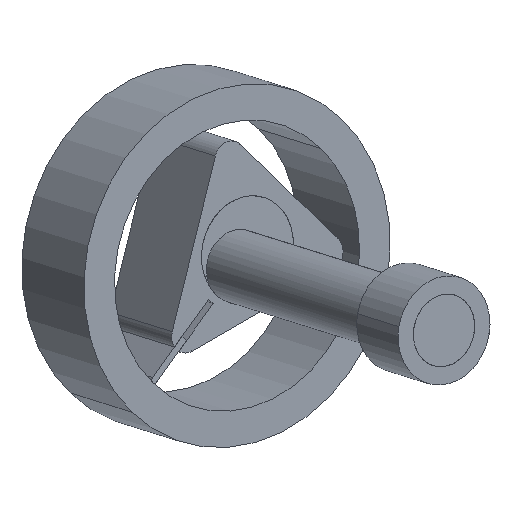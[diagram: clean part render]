
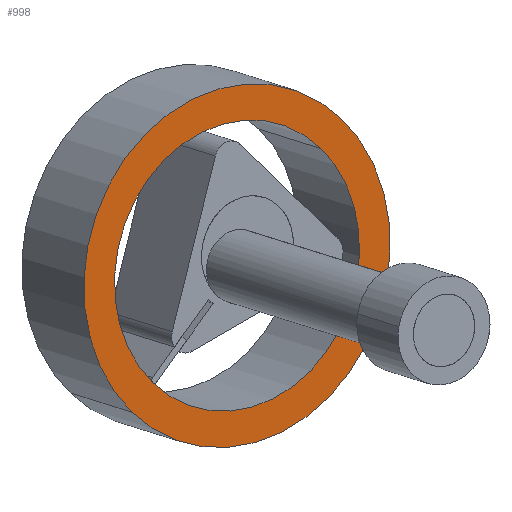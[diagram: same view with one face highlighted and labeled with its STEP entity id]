
A CAD part, left-side view. The second image highlights one B-rep face of the part: STEP entity #998.
In plain terms, the highlighted planar face has unit normal (-0.81, -0.56, -0.175) as drawn and (-1, 0, 0) by its records, which use the part's own axes.
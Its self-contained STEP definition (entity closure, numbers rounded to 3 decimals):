
#880=CARTESIAN_POINT('Vertex',(0.,50.,0.)) ;
#885=CARTESIAN_POINT('Axis2P3D Location',(0.,0.,0.)) ;
#889=CARTESIAN_POINT('Vertex',(0.,-50.,0.)) ;
#911=CARTESIAN_POINT('Axis2P3D Location',(0.,0.,0.)) ;
#946=CARTESIAN_POINT('Vertex',(0.,40.,0.)) ;
#949=CARTESIAN_POINT('Axis2P3D Location',(0.,0.,0.)) ;
#953=CARTESIAN_POINT('Vertex',(0.,-40.,0.)) ;
#973=CARTESIAN_POINT('Axis2P3D Location',(0.,0.,0.)) ;
#985=CARTESIAN_POINT('Axis2P3D Location',(0.,0.,0.)) ;
#886=DIRECTION('Axis2P3D Direction',(1.,0.,0.)) ;
#912=DIRECTION('Axis2P3D Direction',(1.,0.,0.)) ;
#950=DIRECTION('Axis2P3D Direction',(1.,0.,0.)) ;
#974=DIRECTION('Axis2P3D Direction',(1.,0.,0.)) ;
#986=DIRECTION('Axis2P3D Direction',(1.,0.,0.)) ;
#987=DIRECTION('Axis2P3D XDirection',(0.,1.,0.)) ;
#887=AXIS2_PLACEMENT_3D('Circle Axis2P3D',#885,#886,$) ;
#913=AXIS2_PLACEMENT_3D('Circle Axis2P3D',#911,#912,$) ;
#951=AXIS2_PLACEMENT_3D('Circle Axis2P3D',#949,#950,$) ;
#975=AXIS2_PLACEMENT_3D('Circle Axis2P3D',#973,#974,$) ;
#988=AXIS2_PLACEMENT_3D('Plane Axis2P3D',#985,#986,#987) ;
#991=ORIENTED_EDGE('',*,*,#915,.F.) ;
#992=ORIENTED_EDGE('',*,*,#891,.F.) ;
#995=ORIENTED_EDGE('',*,*,#977,.T.) ;
#996=ORIENTED_EDGE('',*,*,#955,.T.) ;
#997=FACE_BOUND('',#994,.T.) ;
#998=ADVANCED_FACE('Hauptk\X2\00F6\X0\rper',(#993,#997),#989,.F.) ;
#888=CIRCLE('generated circle',#887,50.) ;
#914=CIRCLE('generated circle',#913,50.) ;
#952=CIRCLE('generated circle',#951,40.) ;
#976=CIRCLE('generated circle',#975,40.) ;
#891=EDGE_CURVE('',#881,#890,#888,.T.) ;
#915=EDGE_CURVE('',#890,#881,#914,.T.) ;
#955=EDGE_CURVE('',#954,#947,#952,.T.) ;
#977=EDGE_CURVE('',#947,#954,#976,.T.) ;
#990=EDGE_LOOP('',(#991,#992)) ;
#994=EDGE_LOOP('',(#995,#996)) ;
#993=FACE_OUTER_BOUND('',#990,.T.) ;
#989=PLANE('Plane',#988) ;
#881=VERTEX_POINT('',#880) ;
#890=VERTEX_POINT('',#889) ;
#947=VERTEX_POINT('',#946) ;
#954=VERTEX_POINT('',#953) ;
